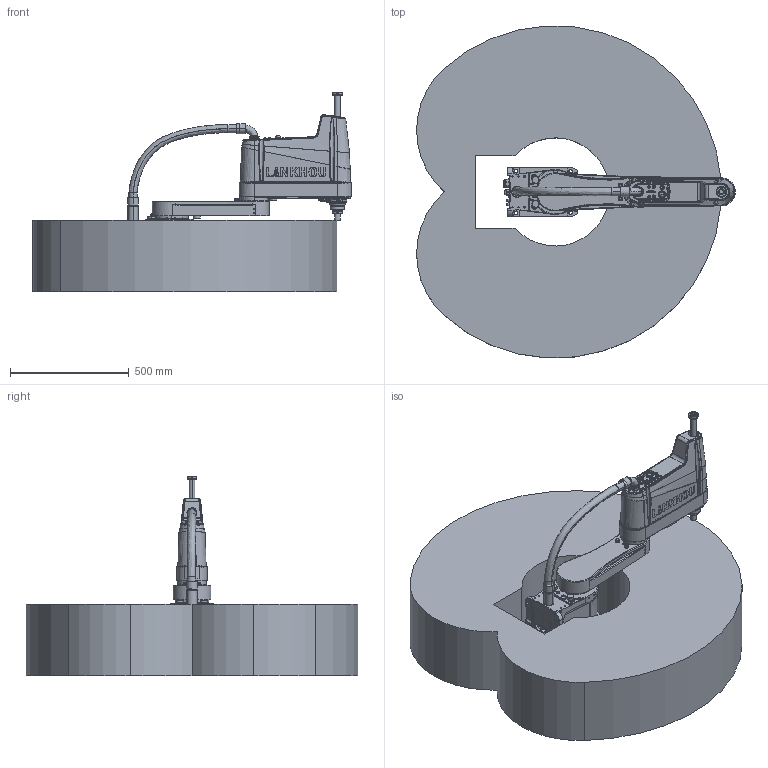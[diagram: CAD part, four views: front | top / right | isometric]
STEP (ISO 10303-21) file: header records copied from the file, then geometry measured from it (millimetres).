
FILE_DESCRIPTION (( 'STEP AP203' ), '1' );
FILE_NAME ('TM10A-R700Z30ÓÐlogo2017.step', '2023-12-22T14:13:36', ( '' ), ( '' ), 'SwSTEP 2.0', 'SolidWorks 2017', '' );
FILE_SCHEMA (( 'CONFIG_CONTROL_DESIGN' ));
Products named in the file (7): ｸｴｼ 25ﾋｿｸﾋ540ﾊﾄ｣ﾍｼ^TM10A-R700Z30ﾓﾐlogo2017; ｸｴｼ TM10A-R800ﾔﾋｶｯｷｶﾎｧﾍｼ^TM10A-R700Z30ﾓﾐlogo2017; TM10A-R700Z30ÓÐlogo2017; ｸｴｼ TM10Aﾐ｡ｱﾛﾓﾐlogo^TM10A-R700Z30ﾓﾐlogo2017; ｸｴｼ TM10A-R700ｴﾛ^TM10A-R700Z30ﾓﾐlogo2017; ｸｴｼ ｸｴｼ ｸｴｼ TM10A-ｵﾗﾗTM10A-R700Z30ﾓﾐlogo2017; ¸´¼þ TM10A-R700¹Ü^TM10A-R700Z30ÓÐlogo2017
Assembly tree (6 placements, depth 2):
  TM10A-R700Z30ÓÐlogo2017
    ｸｴｼ ｸｴｼ ｸｴｼ TM10A-ｵﾗﾗTM10A-R700Z30ﾓﾐlogo2017
    ｸｴｼ TM10A-R700ｴﾛ^TM10A-R700Z30ﾓﾐlogo2017
    ｸｴｼ TM10Aﾐ｡ｱﾛﾓﾐlogo^TM10A-R700Z30ﾓﾐlogo2017
    ｸｴｼ 25ﾋｿｸﾋ540ﾊﾄ｣ﾍｼ^TM10A-R700Z30ﾓﾐlogo2017
    ¸´¼þ TM10A-R700¹Ü^TM10A-R700Z30ÓÐlogo2017
    ｸｴｼ TM10A-R800ﾔﾋｶｯｷｶﾎｧﾍｼ^TM10A-R700Z30ﾓﾐlogo2017
Bounding box: 1343.2 x 1398.22 x 840 mm (x, y, z)
Volume: 394346112.7 mm3; surface area: 6291059.5 mm2
Topology: 42 solids, 43 shells, 3179 faces, 8074 edges, 5094 vertices
Faces by surface type: plane 962, bspline 837, cylinder 810, cone 569, torus 1
Entity records: 187703 total; most frequent: CARTESIAN_POINT 119543, ORIENTED_EDGE 15930, DIRECTION 11017, EDGE_CURVE 7965, VERTEX_POINT 5094, AXIS2_PLACEMENT_3D 4128, EDGE_LOOP 3529, FACE_OUTER_BOUND 3179
